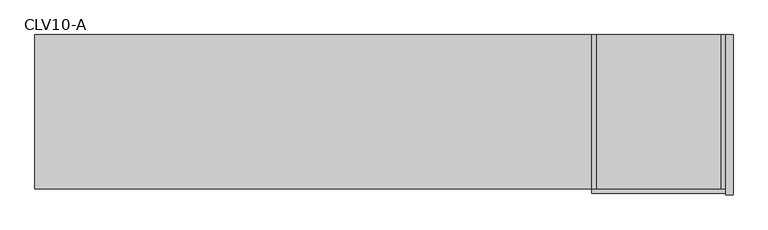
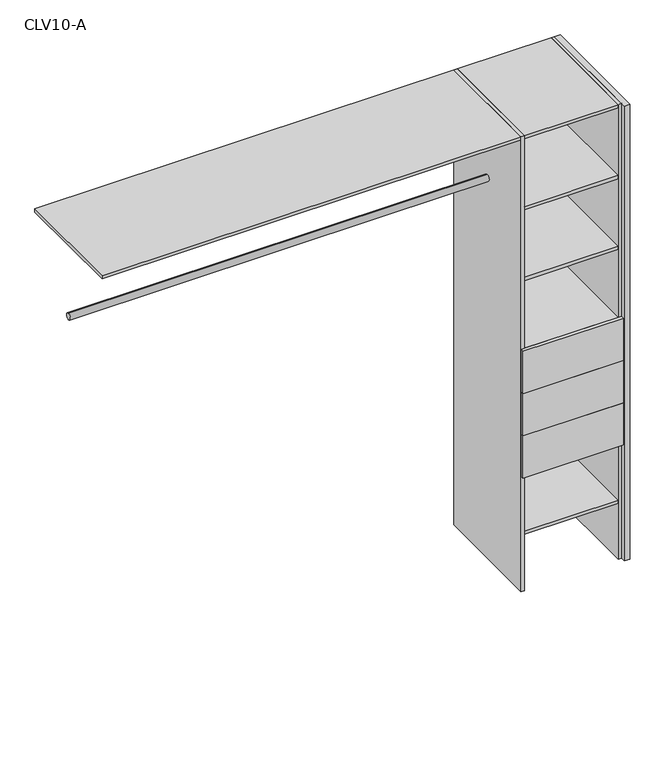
"""IFC4 building model written with IfcOpenShell, lengths in millimetres: furniture geometry, Closet 1estantes-1tubos_lateral estante : CLV10-A."""

import ifcopenshell
import ifcopenshell.guid

model = None  # the IFC model being written
_history = None  # IfcOwnerHistory: only IFC2X3 demands one
_inside = {}  # id of a spatial element -> (the spatial element, [elements in it])
_under = {}  # id of a project, library or spatial element -> (it, [spatial elements below it])
_declared = {}  # id of a project -> (the project, [libraries it declares])
_typed = {}  # id of a type object -> (the type object, [elements of that type])
_made_of = {}  # id of a material, layer set ... -> (it, [elements and type objects made of it])


def new_model(schema):
    """Start an empty IFC model of exactly this schema.

    Asked for "IFC4X3", IfcOpenShell would pick the latest addendum, in which some entities
    have other attributes; the version numbers below select the first issue.
    IFC2X3 requires an IfcOwnerHistory on every rooted entity: one is made here for all.
    """
    global model, _history
    if schema == "IFC4X3":
        model = ifcopenshell.file(schema_version=(4, 3, 0, 0))
    else:
        model = ifcopenshell.file(schema=schema)
    _inside.clear()
    _under.clear()
    _declared.clear()
    _typed.clear()
    _made_of.clear()
    _history = None
    if model.schema == "IFC2X3":
        org = make("IfcOrganization", Name="unknown")
        user = make(
            "IfcPersonAndOrganization",
            ThePerson=make("IfcPerson", FamilyName="unknown"),
            TheOrganization=org,
        )
        app = make(
            "IfcApplication",
            ApplicationDeveloper=org,
            Version="unknown",
            ApplicationFullName="unknown",
            ApplicationIdentifier="unknown",
        )
        _history = make(
            "IfcOwnerHistory",
            OwningUser=user,
            OwningApplication=app,
            ChangeAction="ADDED",
            CreationDate=0,
        )
    return model


def make(cls, **values):
    """One entity of the class cls with the attributes given. An attribute that is None is left unset."""
    return model.create_entity(
        cls, **{name: value for name, value in values.items() if value is not None}
    )


def rooted(cls, **values):
    """An entity with a GlobalId (a new one), such as an element, a storey or a relation."""
    return make(cls, GlobalId=ifcopenshell.guid.new(), OwnerHistory=_history, **values)


def si_unit(unit_type, name, prefix=None):
    """IfcSIUnit, for example si_unit("LENGTHUNIT", "METRE", prefix="MILLI")."""
    return make("IfcSIUnit", UnitType=unit_type, Prefix=prefix, Name=name)


def assignment(units):
    """IfcUnitAssignment: the units of a project."""
    return None if units is None else make("IfcUnitAssignment", Units=units)


def point(xyz):
    """IfcCartesianPoint."""
    return None if xyz is None else make("IfcCartesianPoint", Coordinates=xyz)


def direction(xyz):
    """IfcDirection."""
    return None if xyz is None else make("IfcDirection", DirectionRatios=xyz)


def frame(location, z_axis=None, x_axis=None):
    """IfcAxis2Placement3D, a coordinate frame: its origin and axes. An axis left out is left unset."""
    return make(
        "IfcAxis2Placement3D",
        Location=point(location),
        Axis=direction(z_axis),
        RefDirection=direction(x_axis),
    )


def frame_2d(location, x_axis=None):
    """IfcAxis2Placement2D, a coordinate frame in the plane: its origin and x axis."""
    return make(
        "IfcAxis2Placement2D", Location=point(location), RefDirection=direction(x_axis)
    )


def origin():
    """The frame at (0, 0, 0) with its axes left unset."""
    return frame((0.0, 0.0, 0.0))


def origin_with_axes():
    """The frame at (0, 0, 0) with the z axis (0, 0, 1) and the x axis (1, 0, 0) written out."""
    return frame((0.0, 0.0, 0.0), z_axis=(0.0, 0.0, 1.0), x_axis=(1.0, 0.0, 0.0))


def place(relative_to, where):
    """IfcLocalPlacement: puts the frame where relative to a parent placement (None: the world)."""
    return make(
        "IfcLocalPlacement", PlacementRelTo=relative_to, RelativePlacement=where
    )


def context(
    kind, dimensions, precision=None, world=None, true_north=None, identifier=None
):
    """IfcGeometricRepresentationContext, for example the 3D "Model" context."""
    return make(
        "IfcGeometricRepresentationContext",
        ContextIdentifier=identifier,
        ContextType=kind,
        CoordinateSpaceDimension=dimensions,
        Precision=precision,
        WorldCoordinateSystem=world,
        TrueNorth=true_north,
    )


def project(units=None, contexts=None):
    """IfcProject with its units and contexts."""
    return rooted(
        "IfcProject",
        Name="project",
        RepresentationContexts=contexts,
        UnitsInContext=assignment(units),
    )


def spatial(cls, under=None, at=None, **own):
    """A site, building, storey or space (cls), placed at a placement, below another one or the project."""
    s = rooted(cls, ObjectPlacement=at, **own)
    if under is not None:
        _under.setdefault(under.id(), (under, []))[1].append(s)
    return s


def polyline(points):
    """IfcPolyline through the points."""
    return make("IfcPolyline", Points=[point(p) for p in points])


def circle_curve(where, radius):
    """IfcCircle in the frame where."""
    return make("IfcCircle", Position=where, Radius=radius)


def trimmed(basis, trim1, trim2, sense, master):
    """IfcTrimmedCurve: the piece of a basis curve between two trims."""
    return make(
        "IfcTrimmedCurve",
        BasisCurve=basis,
        Trim1=trim1,
        Trim2=trim2,
        SenseAgreement=sense,
        MasterRepresentation=master,
    )


def segment(curve, same_sense, transition):
    """IfcCompositeCurveSegment."""
    return make(
        "IfcCompositeCurveSegment",
        Transition=transition,
        SameSense=same_sense,
        ParentCurve=curve,
    )


def composite_curve(segments, self_intersect=None):
    """IfcCompositeCurve: segments joined end to end."""
    return make("IfcCompositeCurve", Segments=segments, SelfIntersect=self_intersect)


def outline(outer, holes=None, kind="AREA"):
    """IfcArbitraryClosedProfileDef: a profile drawn as a closed curve; with holes, ...WithVoids."""
    if holes is None:
        return make("IfcArbitraryClosedProfileDef", ProfileType=kind, OuterCurve=outer)
    return make(
        "IfcArbitraryProfileDefWithVoids",
        ProfileType=kind,
        OuterCurve=outer,
        InnerCurves=holes,
    )


def extrude(swept, where, along, depth):
    """IfcExtrudedAreaSolid: the profile swept, set in the frame where, extruded along a direction by depth."""
    return make(
        "IfcExtrudedAreaSolid",
        SweptArea=swept,
        Position=where,
        ExtrudedDirection=direction(along),
        Depth=depth,
    )


def shape(context_of_items, identifier, shape_type, items):
    """IfcShapeRepresentation: the items that make up one representation, for example the "Body"."""
    return make(
        "IfcShapeRepresentation",
        ContextOfItems=context_of_items,
        RepresentationIdentifier=identifier,
        RepresentationType=shape_type,
        Items=items,
    )


def source(mapping_origin, context_of_items, identifier, shape_type, items):
    """IfcRepresentationMap: a shape defined once, which mapped items show again and again."""
    return make(
        "IfcRepresentationMap",
        MappingOrigin=mapping_origin,
        MappedRepresentation=shape(context_of_items, identifier, shape_type, items),
    )


def transform(
    local_origin,
    x_axis=None,
    y_axis=None,
    z_axis=None,
    scale=None,
    scale2=None,
    scale3=None,
    uniform=True,
):
    """IfcCartesianTransformationOperator3D, or its non-uniform kind. x_axis, y_axis, z_axis: its Axis1, 2, 3."""
    if uniform:
        return make(
            "IfcCartesianTransformationOperator3D",
            Axis1=direction(x_axis),
            Axis2=direction(y_axis),
            LocalOrigin=point(local_origin),
            Scale=scale,
            Axis3=direction(z_axis),
        )
    return make(
        "IfcCartesianTransformationOperator3DnonUniform",
        Axis1=direction(x_axis),
        Axis2=direction(y_axis),
        LocalOrigin=point(local_origin),
        Scale=scale,
        Axis3=direction(z_axis),
        Scale2=scale2,
        Scale3=scale3,
    )


def mapped(mapping_source, mapping_target):
    """IfcMappedItem: shows the shape of a source again, moved by a transform."""
    return make(
        "IfcMappedItem", MappingSource=mapping_source, MappingTarget=mapping_target
    )


def made_of(thing, what):
    """Note that an element or type object is made of a material, layer set ...; save() writes the relation."""
    if what is not None:
        _made_of.setdefault(what.id(), (what, []))[1].append(thing)
    return thing


def element(
    cls,
    number,
    at=None,
    inside=None,
    cuts=None,
    type_object=None,
    material=None,
    context=None,
    identifier="Body",
    shape_type=None,
    held_by="IfcProductDefinitionShape",
    body=None,
    shapes=None,
    **own,
):
    """One element of the class cls, such as IfcWall. Its Tag is "e" and its number.

    at: its placement. inside: the storey or other place that contains it. cuts: it is an
    opening in that element (IfcRelVoidsElement). A single representation is given by context,
    identifier, shape_type and body (its items); several are given by shapes. held_by: the class
    of the entity that holds the representations. save() writes the other relations.
    """
    e = rooted(cls, Tag="e%d" % number, ObjectPlacement=at, **own)
    if body is not None:
        shapes = [shape(context, identifier, shape_type, body)]
    if shapes is not None:
        e.Representation = make(held_by, Representations=shapes)
    if inside is not None:
        _inside.setdefault(inside.id(), (inside, []))[1].append(e)
    if cuts is not None:
        rooted(
            "IfcRelVoidsElement", RelatingBuildingElement=cuts, RelatedOpeningElement=e
        )
    if type_object is not None:
        _typed.setdefault(type_object.id(), (type_object, []))[1].append(e)
    return made_of(e, material)


def aggregate(whole, parts):
    """IfcRelAggregates: a whole, such as a stair, and the parts it consists of."""
    return rooted("IfcRelAggregates", RelatingObject=whole, RelatedObjects=parts)


def save(model, path):
    """Write the relations noted so far, then the file.

    IfcRelAggregates (storeys below a building ...), IfcRelContainedInSpatialStructure (elements
    in a storey), IfcRelDefinesByType, IfcRelAssociatesMaterial and IfcRelDeclares: one each for
    every whole, place, type object, material and project.
    """
    for whole, parts in _under.values():
        aggregate(whole, parts)
    for where, things in _inside.values():
        rooted(
            "IfcRelContainedInSpatialStructure",
            RelatedElements=things,
            RelatingStructure=where,
        )
    for kind, things in _typed.values():
        rooted("IfcRelDefinesByType", RelatedObjects=things, RelatingType=kind)
    for what, things in _made_of.values():
        rooted("IfcRelAssociatesMaterial", RelatedObjects=things, RelatingMaterial=what)
    for by, libraries in _declared.values():
        rooted("IfcRelDeclares", RelatingContext=by, RelatedDefinitions=libraries)
    model.write(path)


def clv10_a_25008940(model_context):
    return source(origin(), model_context, "Body", "SweptSolid", [
        extrude(outline(polyline([(250.0, 60.0), (225.0, 60.0), (225.0, 600.0), (250.0, 600.0), (250.0, 60.0)])), origin_with_axes(), (0.0, 0.0, 1.0), 2150.0),
        extrude(outline(polyline([(225.0, 80.0), (210.0, 80.0), (210.0, 600.0), (225.0, 600.0), (225.0, 80.0)])), origin_with_axes(), (0.0, 0.0, 1.0), 2150.0),
        extrude(outline(polyline([(-210.0, 80.0), (-225.0, 80.0), (-225.0, 600.0), (-210.0, 600.0), (-210.0, 80.0)])), origin_with_axes(), (0.0, 0.0, 1.0), 2150.0),
        extrude(outline(polyline([(225.0, 80.0), (225.0, 65.0), (-225.0, 65.0), (-225.0, 80.0), (225.0, 80.0)])), frame((0.0, 0.0, 945.0), z_axis=(0.0, 0.0, 1.0), x_axis=(1.0, 0.0, 0.0)), (0.0, 0.0, 1.0), 200.0),
        extrude(outline(polyline([(225.0, 80.0), (225.0, 65.0), (-225.0, 65.0), (-225.0, 80.0), (225.0, 80.0)])), frame((0.0, 0.0, 745.0), z_axis=(0.0, 0.0, 1.0), x_axis=(1.0, 0.0, 0.0)), (0.0, 0.0, 1.0), 200.0),
        extrude(outline(polyline([(225.0, 80.0), (225.0, 65.0), (-225.0, 65.0), (-225.0, 80.0), (225.0, 80.0)])), frame((0.0, 0.0, 545.0), z_axis=(0.0, 0.0, 1.0), x_axis=(1.0, 0.0, 0.0)), (0.0, 0.0, 1.0), 200.0),
        extrude(outline(polyline([(210.0, 80.0), (-210.0, 80.0), (-210.0, 600.0), (210.0, 600.0), (210.0, 80.0)])), frame((0.0, 0.0, 1130.0), z_axis=(0.0, 0.0, 1.0), x_axis=(1.0, 0.0, 0.0)), (0.0, 0.0, 1.0), 15.0),
        extrude(outline(composite_curve([segment(trimmed(circle_curve(frame_2d((340.0, 1800.0)), 15.0), [point((340.0, 1815.0))], [point((340.0, 1785.0))], False, "CARTESIAN"), True, "CONTINUOUS"), segment(trimmed(circle_curve(frame_2d((340.0, 1800.0)), 15.0), [point((340.0, 1785.0))], [point((340.0, 1815.0))], False, "CARTESIAN"), True, "CONTINUOUS")], self_intersect=False)), frame((-2100.0, 0.0, 0.0), z_axis=(1.0, 0.0, 0.0), x_axis=(0.0, 1.0, 0.0)), (0.0, 0.0, 1.0), 1875.0),
        extrude(outline(composite_curve([segment(trimmed(circle_curve(frame_2d((340.0, 1800.0)), 15.0), [point((340.0, 1815.0))], [point((340.0, 1785.0))], False, "CARTESIAN"), True, "CONTINUOUS"), segment(trimmed(circle_curve(frame_2d((340.0, 1800.0)), 15.0), [point((340.0, 1785.0))], [point((340.0, 1815.0))], False, "CARTESIAN"), True, "CONTINUOUS")], self_intersect=False)), frame((-2100.0, 0.0, 0.0), z_axis=(1.0, 0.0, 0.0), x_axis=(0.0, 1.0, 0.0)), (0.0, 0.0, 1.0), 1875.0),
        extrude(outline(polyline([(210.0, 80.0), (-210.0, 80.0), (-210.0, 600.0), (210.0, 600.0), (210.0, 80.0)])), frame((0.0, 0.0, 265.0), z_axis=(0.0, 0.0, 1.0), x_axis=(1.0, 0.0, 0.0)), (0.0, 0.0, 1.0), 15.0),
        extrude(outline(polyline([(210.0, 80.0), (-210.0, 80.0), (-210.0, 600.0), (210.0, 600.0), (210.0, 80.0)])), frame((0.0, 0.0, 545.0), z_axis=(0.0, 0.0, 1.0), x_axis=(1.0, 0.0, 0.0)), (0.0, 0.0, 1.0), 15.0),
        extrude(outline(polyline([(210.0, 80.0), (-210.0, 80.0), (-210.0, 600.0), (210.0, 600.0), (210.0, 80.0)])), frame((0.0, 0.0, 1465.0), z_axis=(0.0, 0.0, 1.0), x_axis=(1.0, 0.0, 0.0)), (0.0, 0.0, 1.0), 15.0),
        extrude(outline(polyline([(210.0, 80.0), (-210.0, 80.0), (-210.0, 600.0), (210.0, 600.0), (210.0, 80.0)])), frame((0.0, 0.0, 1800.0), z_axis=(0.0, 0.0, 1.0), x_axis=(1.0, 0.0, 0.0)), (0.0, 0.0, 1.0), 15.0),
        extrude(outline(polyline([(-210.0, 80.0), (-2100.0, 80.0), (-2100.0, 600.0), (-210.0, 600.0), (-210.0, 80.0)])), frame((0.0, 0.0, 2135.0), z_axis=(0.0, 0.0, 1.0), x_axis=(1.0, 0.0, 0.0)), (0.0, 0.0, 1.0), 15.0),
        extrude(outline(polyline([(210.0, 80.0), (-210.0, 80.0), (-210.0, 600.0), (210.0, 600.0), (210.0, 80.0)])), frame((0.0, 0.0, 2135.0), z_axis=(0.0, 0.0, 1.0), x_axis=(1.0, 0.0, 0.0)), (0.0, 0.0, 1.0), 15.0),
    ])


if __name__ == "__main__":
    model = new_model("IFC4")
    model_context = context("Model", 3, world=origin())
    ifc_project = project(units=[si_unit("LENGTHUNIT", "METRE", prefix="MILLI")], contexts=[model_context])
    site = spatial("IfcSite", under=ifc_project)
    building = spatial("IfcBuilding", under=site)
    placement = place(None, origin())
    clv10_a_shape = clv10_a_25008940(model_context)
    element("IfcFurniture", 1, ObjectType="Closet 1estantes-1tubos_lateral estante : CLV10-A", at=placement, inside=building, context=model_context, shape_type="MappedRepresentation", body=[
        mapped(clv10_a_shape, transform((0.0, 0.0, 0.0), x_axis=(1.0, 0.0, 0.0), y_axis=(0.0, 1.0, 0.0), z_axis=(0.0, 0.0, 1.0))),
    ])
    save(model, "model.ifc")
